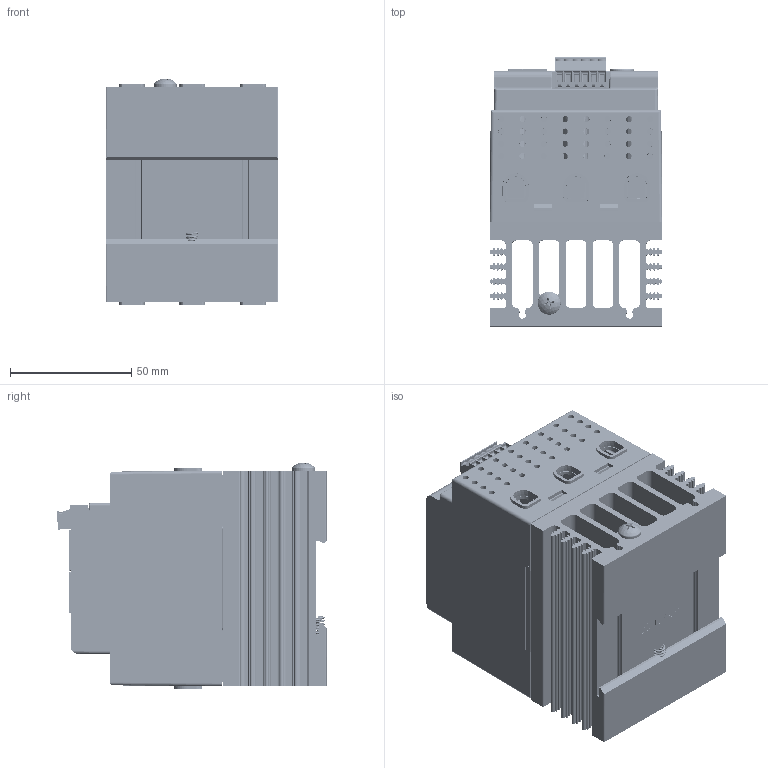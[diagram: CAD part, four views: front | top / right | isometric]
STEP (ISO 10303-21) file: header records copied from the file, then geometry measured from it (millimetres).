
FILE_DESCRIPTION(/* description */ (''),/* implementation_level */ '2;1');
FILE_NAME(/* name */ '3-phase EtherCAT 16A.stp',/* time_stamp */ '2024-11-15T09:50:49-06:00',/* author */ ('ErikG'),/* organization */ (''),/* preprocessor_version */ 'ST-DEVELOPER v20',/* originating_system */ 'Autodesk Inventor 2025',/* authorisation */ '');
FILE_SCHEMA (('AUTOMOTIVE_DESIGN { 1 0 10303 214 3 1 1 }'));
Products named in the file (33): 3001632e; SCA-3TC; P1; usb-c31-s-vt-cs4-bk-pp-t-r-model ADAMTECH; P6; fci 6 pin header OQ06120000J0G; fci 6 pin headerOQ06120000J0G half 1; fci 5 pin header OQ05120000J0G half 2; fci 6 pin connector TS06110B00J0G; fci 5 pin connector TS05110B00J0G LEFT HALF; fci 5 pin connector TS05110B00J0G RIGHT HALF; P2; TC0203620000G; P11; P5; 74990101210 (rev1); base; shielding; SCA-3TC_1; SW3; SW2; SH-7070TA; _SH-7070A_body; _SH-700-Without knob (Minus slot); 3001769C_ecat cutouts; 3001761; 3001759; 3001766; 3001765b; 3001748; spring; 0060783-0610-010.ipt; 0060702-1032-0375
Assembly tree (36 placements, depth 6):
  3001632e
    SCA-3TC
      P1
        usb-c31-s-vt-cs4-bk-pp-t-r-model ADAMTECH
      P6
        fci 6 pin header OQ06120000J0G
          fci 6 pin headerOQ06120000J0G half 1
          fci 5 pin header OQ05120000J0G half 2
          fci 6 pin connector TS06110B00J0G
            fci 5 pin connector TS05110B00J0G LEFT HALF
            fci 5 pin connector TS05110B00J0G RIGHT HALF
      P2
        TC0203620000G
      P11
        74990101210 (rev1)
          base
          shielding
      P5
        74990101210 (rev1)
          base
          shielding
    SCA-3TC_1
      SW3
        SH-7070TA
          _SH-7070A_body
          _SH-700-Without knob (Minus slot)
      SW2
        SH-7070TA
          _SH-7070A_body
          _SH-700-Without knob (Minus slot)
    3001769C_ecat cutouts
    3001761  x3
    3001759
    3001766
    3001765b
    3001748
    spring
    0060783-0610-010.ipt
    0060702-1032-0375
Bounding box: 71.12 x 110.89 x 93.49 mm (x, y, z)
Volume: 230121.9 mm3; surface area: 213269.5 mm2
Topology: 26 solids, 116 shells, 10167 faces, 28462 edges, 18714 vertices
Faces by surface type: plane 8007, cylinder 1591, cone 340, bspline 127, torus 83, sphere 19
Full cylindrical faces by diameter (mm): 0.254 x1, 0.45 x2, 0.55 x2, 0.65 x2, 1 x6, 1.2 x2, 1.75 x2, 2.15 x12, 2.3 x12, 2.642 x6, 2.7 x2, 2.8 x4, 2.95 x6, 3.277 x4, 3.28 x2, 3.3 x2, 3.342 x1, 3.4 x2, 3.42 x2, 3.6 x2, 4 x2, 4.826 x1, 4.917 x1, 6 x1, 6.172 x1, 6.731 x2, 7.976 x1, 9.474 x1
Entity records: 281492 total; most frequent: CARTESIAN_POINT 72124, ORIENTED_EDGE 44406, DIRECTION 40844, EDGE_CURVE 22203, LINE 17590, VECTOR 17590, VERTEX_POINT 14618, AXIS2_PLACEMENT_3D 11627
